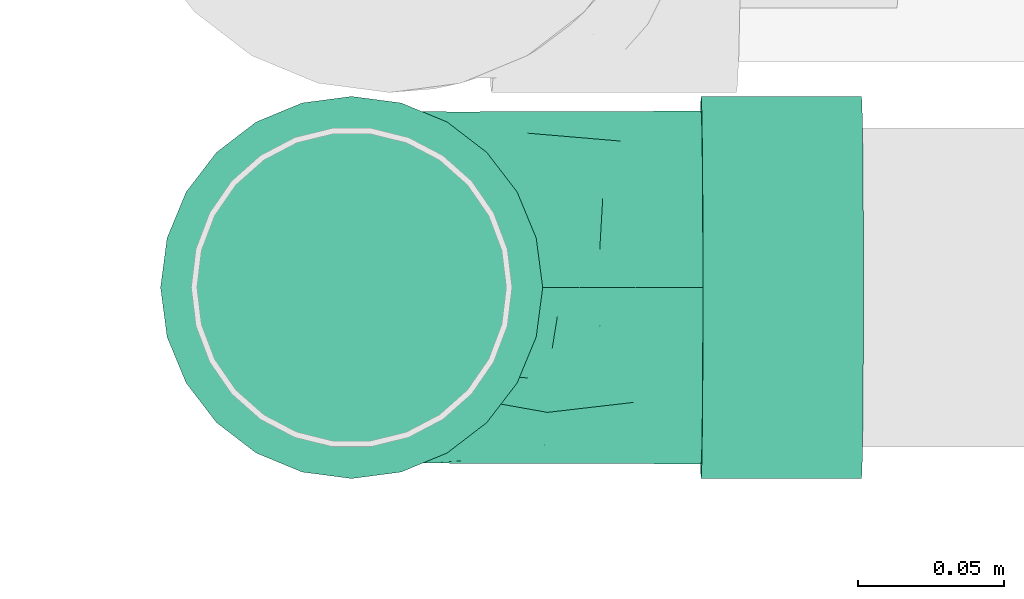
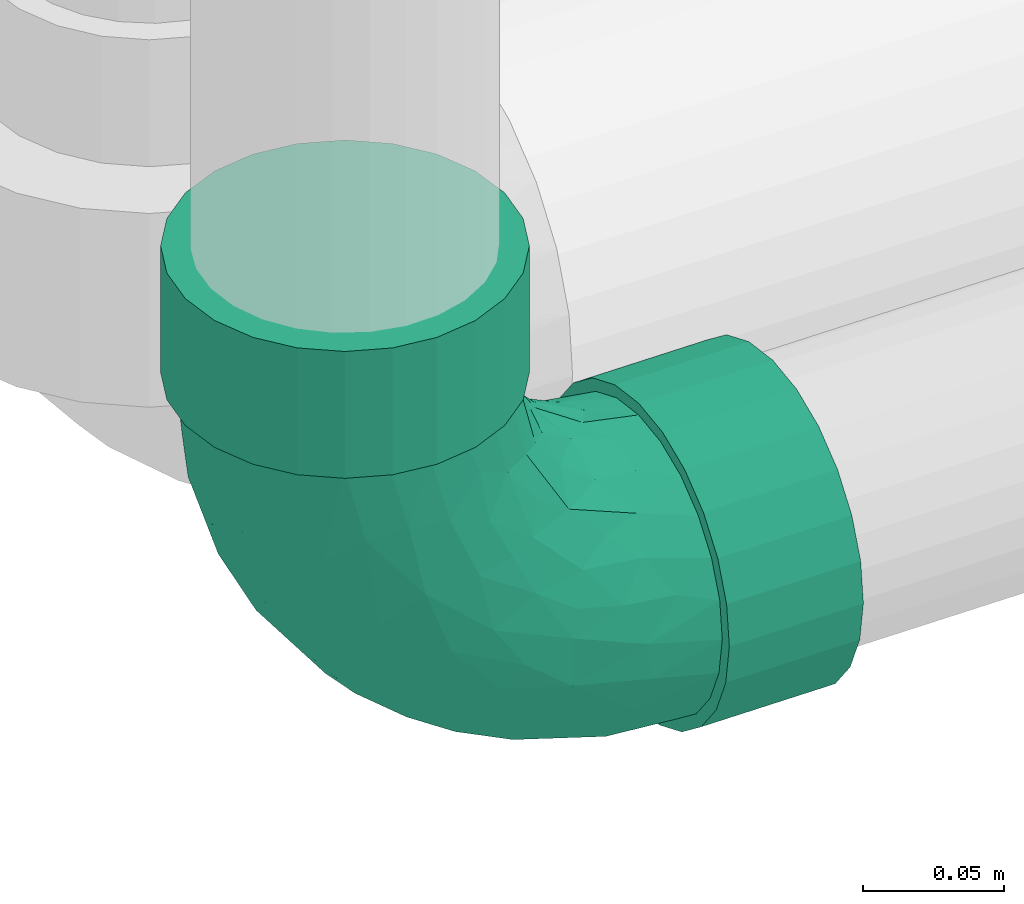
# One storey, part 60 of 78: 1 flow fitting.
"""IFC2X3 building model written with IfcOpenShell, lengths in millimetres."""

from ifc_helpers import new_model, entity, si_unit, converted_unit, derived_unit, direction, frame, origin_with_axes, place, context, subcontext, project, spatial, open_shell, surface_model, source, transform, mapped, type_object, element, save


model = new_model("IFC2X3")

# Units and contexts
model_context = context("Model", 3, precision=0.01, world=frame((0.0, 4.29681676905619e-09, 0.0)), true_north=direction((4.01073788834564e-13, 1.0)))
plan_context = context("Plan", 3, precision=0.01, world=frame((0.0, 4.29681676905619e-09, 0.0)), true_north=direction((4.01073788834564e-13, 1.0)))
body_context = subcontext(model_context, "Body", "Model", "MODEL_VIEW")
ifc_project = project(units=[converted_unit("PLANEANGLEUNIT", "DEGREE", entity("IfcPositiveLengthMeasure", 0.0174532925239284), si_unit("PLANEANGLEUNIT", "RADIAN"), dimensions=[0, 0, 0, 0, 0, 0, 0]), si_unit("AREAUNIT", "SQUARE_METRE"), si_unit("LENGTHUNIT", "METRE", prefix="MILLI"), si_unit("MASSUNIT", "GRAM", prefix="KILO"), si_unit("POWERUNIT", "WATT"), si_unit("PRESSUREUNIT", "PASCAL"), si_unit("FORCEUNIT", "NEWTON", prefix="KILO"), si_unit("ELECTRICVOLTAGEUNIT", "VOLT"), si_unit("ELECTRICCURRENTUNIT", "AMPERE"), si_unit("THERMODYNAMICTEMPERATUREUNIT", "DEGREE_CELSIUS"), si_unit("TIMEUNIT", "SECOND"), si_unit("VOLUMEUNIT", "CUBIC_METRE"), derived_unit("LINEARVELOCITYUNIT", [(si_unit("LENGTHUNIT", "METRE"), 1), (si_unit("TIMEUNIT", "SECOND"), -1)]), derived_unit("VOLUMETRICFLOWRATEUNIT", [(si_unit("VOLUMEUNIT", "CUBIC_METRE"), 1), (si_unit("TIMEUNIT", "SECOND"), -1)]), derived_unit("THERMALTRANSMITTANCEUNIT", [(si_unit("POWERUNIT", "WATT"), 1), (si_unit("THERMODYNAMICTEMPERATUREUNIT", "KELVIN"), -1), (si_unit("AREAUNIT", "SQUARE_METRE"), -1)]), derived_unit("SOUNDPRESSUREUNIT", [(si_unit("PRESSUREUNIT", "PASCAL"), 1)])], contexts=[model_context, plan_context])

# Site, building, storey
site_placement = place(None, frame((0.0, -4.29681676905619e-09, 0.0), z_axis=(0.0, 0.0, 1.0), x_axis=(1.0, 0.0, 0.0)))
site = spatial("IfcSite", under=ifc_project, at=site_placement, Name="ENGM", CompositionType="ELEMENT")
building_placement = place(site_placement, frame((0.0, 4.29681676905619e-09, 0.0), z_axis=(0.0, 0.0, 1.0), x_axis=(1.0, 0.0, 0.0)))
building = spatial("IfcBuilding", under=site, at=building_placement, Name="TH", CompositionType="ELEMENT")
storey_placement = place(building_placement, frame((0.0, 0.0, 205200.0), z_axis=(0.0, 0.0, 1.0), x_axis=(1.0, 0.0, 0.0)))
storey = spatial("IfcBuildingStorey", under=building, at=storey_placement, Name="Nivå D + 1,2 m", CompositionType="ELEMENT", Elevation=205200.0)

# Flow fitting
pipe_fitting_type = type_object("IfcPipeFittingType", Name="magi_sewer_bend_001 2", PredefinedType="BEND")
shared_shape = source(origin_with_axes(), body_context, "Body", "SurfaceModel", [
    surface_model("IfcShellBasedSurfaceModel", [(-174.79605, -16.95265, -63.26814), (-174.79605, -32.75, -56.72466), (-174.79605, -46.3155, -46.3155), (-174.79605, -63.26814, -16.95265), (-174.79605, 63.26814, 16.95265), (-174.79605, 46.3155, -46.3155), (-174.79605, -56.72466, -32.75), (-174.79605, 16.95265, -63.26814), (-174.79605, 0.0, -65.5), (-174.79605, 32.75, -56.72466), (-174.79605, 56.72466, -32.75), (-174.79605, 65.5, 0.0), (-174.79605, 63.26814, -16.95265), (-174.79605, -65.5, 0.0), (-174.79605, -56.72466, 32.75), (-174.79605, -46.3155, 46.3155), (-174.79605, -16.95265, 63.26814), (-174.79605, -32.75, 56.72466), (-174.79605, 0.0, 65.5), (-174.79605, 46.3155, 46.3155), (-174.79605, 56.72466, 32.75), (-174.79605, 16.95265, 63.26814), (-174.79605, 32.75, 56.72466), (-174.79605, -63.26814, 16.95265), (-119.79605, -16.95265, 63.26814), (-119.79605, 16.95265, 63.26814), (-119.79605, 0.0, 65.5), (-119.79605, -46.3155, 46.3155), (-119.79605, -32.75, 56.72466), (-119.79605, -56.72466, 32.75), (-119.79605, -63.26814, 16.95265), (-119.79605, 63.26814, 16.95265), (-119.79605, 46.3155, 46.3155), (-119.79605, 32.75, 56.72466), (-119.79605, 56.72466, 32.75), (-119.79605, 65.5, 0.0), (-119.79605, -65.5, 0.0), (-119.79605, -63.26814, -16.95265), (-119.79605, 46.3155, -46.3155), (-119.79605, -46.3155, -46.3155), (-119.79605, -56.72466, -32.75), (-119.79605, -32.75, -56.72466), (-119.79605, -16.95265, -63.26814), (-119.79605, 56.72466, -32.75), (-119.79605, 63.26814, -16.95265), (-119.79605, 16.95265, -63.26814), (-119.79605, 32.75, -56.72466), (-119.79605, 0.0, -65.5), (-61.51711, 175.41996, 16.95265), (-54.97396, 175.35452, 32.75), (-44.56531, 175.25044, 46.3155), (-15.20393, 174.95684, 63.26814), (-63.74885, 175.44227, 0.0), (-31.00049, 175.1148, 56.72466), (1.74787, 174.78731, 65.5), (-54.97396, 175.35452, -32.75), (-61.51711, 175.41996, -16.95265), (-44.56531, 175.25044, -46.3155), (-31.00049, 175.1148, -56.72466), (-15.20393, 174.95684, -63.26814), (48.06105, 174.32417, 46.3155), (18.69967, 174.61779, 63.26814), (34.49624, 174.45983, 56.72466), (65.01285, 174.15467, -16.95265), (65.01285, 174.15467, 16.95265), (58.4697, 174.22009, 32.75), (67.2446, 174.13234, 0.0), (18.69967, 174.61779, -63.26814), (48.06105, 174.32417, -46.3155), (34.49624, 174.45983, -56.72466), (1.74787, 174.78731, -65.5), (58.4697, 174.22009, -32.75), (64.46288, 119.15741, 16.95265), (64.46288, 119.15741, -16.95265), (66.69463, 119.1351, 0.0), (47.51108, 119.32693, 46.3155), (57.91973, 119.22285, 32.75), (33.94626, 119.46258, 56.72466), (18.1497, 119.62054, 63.26814), (47.51108, 119.32693, -46.3155), (57.91973, 119.22285, -32.75), (18.1497, 119.62054, -63.26814), (33.94626, 119.46258, -56.72466), (-15.7539, 119.95957, -63.26814), (1.1979, 119.79006, -65.5), (-15.7539, 119.95957, 63.26814), (-45.11528, 120.25319, -46.3155), (1.1979, 119.79006, 65.5), (-45.11528, 120.25319, 46.3155), (-31.55046, 120.11754, 56.72466), (-55.52393, 120.35728, 32.75), (-62.06708, 120.42271, 16.95265), (-31.55046, 120.11754, -56.72466), (-62.06708, 120.42271, -16.95265), (-55.52393, 120.35728, -32.75), (-64.29882, 120.44503, 0.0), (-119.79605, 15.65855, -58.43851), (-119.79605, 0.0, -60.5), (-119.79605, 58.43851, -15.65855), (-119.79605, 30.25, -52.39454), (-119.79605, 52.39454, -30.25), (-119.79605, 42.77996, -42.77996), (-119.79605, -60.5, 0.0), (-119.79605, -30.25, -52.39454), (-119.79605, -42.77996, -42.77996), (-119.79605, -15.65855, -58.43851), (-119.79605, -58.43851, -15.65855), (-119.79605, -52.39454, -30.25), (-119.79605, -58.43851, 15.65855), (-119.79605, 58.43851, 15.65855), (-119.79605, 52.39454, 30.25), (-119.79605, 42.77996, 42.77996), (-119.79605, 30.25, 52.39454), (-119.79605, 15.65855, 58.43851), (-119.79605, -52.39454, 30.25), (-119.79605, -42.77996, 42.77996), (-119.79605, -30.25, 52.39454), (-119.79605, -15.65855, 58.43851), (-119.79605, 0.0, 60.5), (-119.79605, 60.5, 0.0), (1.1979, 119.79006, -60.5), (-14.45987, 119.94664, -58.43851), (-29.05059, 120.09254, -52.39454), (-57.23769, 120.37442, -15.65855), (-51.19402, 120.31398, -30.25), (-41.57992, 120.21783, -42.77996), (43.97572, 119.36228, -42.77996), (16.85567, 119.63349, -58.43851), (31.44639, 119.48757, -52.39454), (53.58982, 119.26614, -30.25), (61.69488, 119.18509, 0.0), (59.63349, 119.20571, -15.65855), (-59.29907, 120.39503, 0.0), (-57.23769, 120.37442, 15.65855), (31.44639, 119.48757, 52.39454), (-41.57992, 120.21783, 42.77996), (-51.19402, 120.31398, 30.25), (-29.05059, 120.09254, 52.39454), (1.1979, 119.79006, 60.5), (-14.45987, 119.94664, 58.43851), (59.63349, 119.20571, 15.65855), (43.97572, 119.36228, 42.77996), (53.58982, 119.26614, 30.25), (16.85567, 119.63349, 58.43851), (-87.7564, -47.01625, 33.99799), (-81.59863, -53.25036, 19.1542), (-73.11264, -54.39358, 0.0), (-89.88607, -56.58763, 0.0), (32.95566, 31.76664, 23.12546), (43.83182, 46.87375, 14.90539), (38.78221, 51.23378, 30.50477), (27.9062, 48.06796, 41.81132), (15.20787, 45.76588, 50.34414), (12.34215, 21.46453, 41.06128), (-87.67949, -22.85435, 54.43811), (-45.91566, -14.74948, 50.34414), (-59.39918, -0.63529, 58.66063), (35.61407, 77.62346, 45.0791), (-77.9757, -34.8361, 45.0791), (-43.87656, -41.69608, 15.28359), (-51.34156, -45.4394, 0.0), (-29.57048, -36.48523, 0.0), (-60.74993, 104.22435, 10.29838), (-69.35406, 85.05568, 13.11484), (-55.89617, 104.58988, 25.146), (-90.67997, 51.23595, 39.98418), (-82.35119, 68.70825, 21.14642), (-72.88608, 71.30295, 29.78529), (-74.46524, 51.83294, 46.83172), (-93.91693, 37.9627, 50.02655), (-64.7146, 46.18683, 53.57995), (-20.42175, 58.94997, 60.37774), (-44.08168, 44.5247, 59.00094), (-35.46902, 26.15717, 60.21062), (-91.4278, -8.01784, 59.47305), (-21.55232, 103.54419, 56.65744), (-7.40427, 89.47277, 60.34912), (-81.06567, 26.11389, 57.59764), (-89.39426, 8.29859, 60.34912), (-61.1963, 20.40125, 60.32653), (-100.22652, 59.69373, 21.24783), (-87.01841, 60.22132, 31.01352), (-5.00788, -10.48569, 28.16974), (-0.2567, 1.69835, 36.97518), (-20.02834, -14.60637, 37.65577), (-104.15051, 61.68873, 10.04729), (-84.97466, 70.52154, 9.94969), (-27.56806, -26.6884, 28.95666), (-47.70463, -27.46001, 41.48377), (-77.23051, 78.00668, 0.0), (-96.78351, 65.04758, 0.0), (-37.30343, 92.96145, 50.12884), (-103.3235, 22.58663, 56.65744), (-15.17468, 39.71716, 59.39969), (-29.2412, 11.04411, 56.57187), (-5.36768, 32.19014, 55.60132), (-10.25306, 10.3561, 49.56135), (55.12195, 72.56508, 0.0), (54.06364, 81.06208, 19.1542), (47.89142, 87.28187, 33.99799), (8.93168, 91.34306, 59.47305), (-51.61902, -38.26796, 30.50477), (57.48361, 89.31572, 0.0), (-48.94222, 80.35407, 45.98414), (-48.70503, 96.95831, 39.351), (-64.07654, 97.42911, 0.0), (-25.30197, 81.32275, 57.59764), (-43.81672, 66.27767, 53.95713), (23.72996, 87.44657, 54.43811), (-61.39969, 85.45322, 29.82879), (-63.05326, 67.11986, 42.80831), (-31.43024, 61.58285, 58.73283), (1.22922, 59.38986, 58.66063), (7.99357, -4.95199, 15.701), (-10.83497, -22.23259, 0.0), (7.90055, -7.97995, 0.0), (-14.80413, -23.43427, 18.62284), (36.77909, 29.20417, 0.0), (27.16405, 17.21797, 13.77462), (14.60561, 9.00285, 27.38157), (-62.13583, 35.67828, 57.75346), (25.55144, 29.73756, 33.12826), (45.95052, 50.88462, 0.0), (22.33982, 10.61211, 0.0), (-100.30809, 36.96592, -49.53455), (-47.73707, -27.58441, -41.37975), (-45.91566, -14.74948, -50.34414), (-20.02833, -14.60637, -37.65576), (-89.39426, 8.29859, -60.34912), (23.72996, 87.44657, -54.43811), (15.20787, 45.76587, -50.34414), (1.22922, 59.38986, -58.66063), (-103.3235, 22.58663, -56.65744), (-69.35406, 85.05568, -13.11484), (-99.61716, 61.7931, -15.61987), (-60.74993, 104.22435, -10.29838), (-84.97466, 70.52154, -9.94969), (-51.61902, -38.26796, -30.50477), (-27.56806, -26.6884, -28.95666), (-81.06567, 26.11389, -57.59764), (-77.10309, 43.83442, -50.82968), (-63.16489, 39.90276, -56.32433), (-77.9757, -34.8361, -45.0791), (-58.74282, 21.01019, -60.37774), (-44.08168, 44.5247, -59.00094), (-25.80119, 35.7288, -60.21062), (-93.06227, 50.53384, -39.72245), (-81.59863, -53.25036, -19.1542), (-48.37734, 98.38526, -39.19567), (-58.55811, 100.47446, -21.85722), (-66.48601, 63.72127, -42.80831), (-87.7564, -47.01625, -33.99799), (-96.83303, 57.44021, -28.40114), (-82.35119, 68.70825, -21.14642), (-87.67949, -22.85435, -54.4381), (-7.40427, 89.47277, -60.34912), (-47.3097, -43.36092, -14.90539), (14.60561, 9.00285, -27.38157), (12.34215, 21.46453, -41.06128), (25.55144, 29.73756, -33.12826), (-91.4278, -8.01784, -59.47305), (-76.81538, 65.43647, -32.93), (47.89142, 87.28187, -33.99799), (38.78221, 51.23378, -30.50477), (35.61407, 77.62346, -45.0791), (29.28304, 25.48407, -22.76574), (-60.47804, 86.07722, -30.64376), (-37.30342, 92.96145, -50.12884), (-21.55232, 103.54419, -56.65744), (54.06364, 81.06209, -19.1542), (-25.30197, 81.32274, -57.59764), (8.93168, 91.34306, -59.47305), (-39.56343, 15.57107, -59.39969), (-10.75116, 29.35017, -56.57187), (-32.13486, 5.68929, -55.60132), (42.13274, 43.45743, -15.28359), (24.92518, 13.72209, -12.72535), (6.90731, -5.56587, -16.9111), (-51.07595, 60.37645, -52.89772), (-19.7883, 61.39724, -60.32653), (-59.39918, -0.63529, -58.66063), (-37.21382, 63.0363, -57.06139), (-50.30861, 78.65249, -45.71732), (-10.25306, 10.3561, -49.56135), (27.9062, 48.06796, -41.81132), (-14.80414, -23.43428, -18.62283), (-5.00912, -10.4834, -28.17458), (-0.26016, 1.69895, -36.97891)], [open_shell([[[0, 1, 2]], [[0, 2, 3]], [[4, 5, 0]], [[3, 2, 6]], [[3, 4, 0]], [[0, 7, 8]], [[0, 9, 7]], [[5, 9, 0]], [[5, 4, 10]], [[10, 11, 12]], [[4, 3, 13]], [[14, 15, 13]], [[13, 15, 4]], [[15, 16, 4]], [[16, 15, 17]], [[18, 4, 16]], [[4, 19, 20]], [[11, 10, 4]], [[19, 21, 22]], [[21, 19, 4]], [[18, 21, 4]], [[23, 14, 13]], [[24, 25, 26]], [[27, 24, 28]], [[27, 29, 30]], [[25, 24, 27]], [[31, 27, 30]], [[25, 32, 33]], [[32, 25, 31]], [[32, 31, 34]], [[25, 27, 31]], [[30, 35, 31]], [[30, 36, 35]], [[37, 38, 36]], [[39, 37, 40]], [[39, 41, 42]], [[39, 42, 37]], [[38, 37, 42]], [[36, 38, 43]], [[44, 35, 43]], [[42, 45, 46]], [[46, 38, 42]], [[42, 47, 45]], [[43, 35, 36]], [[44, 12, 35]], [[43, 10, 44]], [[45, 47, 7]], [[38, 5, 43]], [[44, 10, 12]], [[12, 11, 35]], [[9, 46, 7]], [[9, 5, 38]], [[46, 45, 7]], [[5, 10, 43]], [[38, 46, 9]], [[47, 8, 7]], [[0, 42, 41]], [[39, 1, 41]], [[6, 40, 37]], [[39, 40, 2]], [[3, 37, 36]], [[42, 0, 8]], [[41, 1, 0]], [[39, 2, 1]], [[40, 6, 2]], [[3, 6, 37]], [[36, 13, 3]], [[42, 8, 47]], [[30, 23, 36]], [[29, 14, 30]], [[28, 17, 27]], [[27, 15, 29]], [[30, 14, 23]], [[23, 13, 36]], [[18, 16, 24]], [[16, 17, 28]], [[15, 27, 17]], [[15, 14, 29]], [[24, 16, 28]], [[24, 26, 18]], [[21, 25, 33]], [[32, 22, 33]], [[20, 34, 31]], [[32, 34, 19]], [[4, 31, 35]], [[25, 21, 18]], [[33, 22, 21]], [[32, 19, 22]], [[34, 20, 19]], [[4, 20, 31]], [[35, 11, 4]], [[25, 18, 26]], [[48, 49, 50]], [[48, 50, 51]], [[48, 51, 52]], [[51, 50, 53]], [[52, 51, 54]], [[52, 55, 56]], [[52, 54, 55]], [[57, 55, 54]], [[54, 58, 57]], [[54, 59, 58]], [[54, 60, 59]], [[61, 62, 60]], [[60, 63, 59]], [[63, 60, 64]], [[64, 60, 65]], [[63, 64, 66]], [[67, 68, 69]], [[70, 59, 67]], [[68, 63, 71]], [[63, 68, 67]], [[63, 67, 59]], [[54, 61, 60]], [[72, 73, 74]], [[75, 72, 76]], [[75, 77, 78]], [[72, 75, 73]], [[78, 73, 75]], [[73, 79, 80]], [[79, 73, 81]], [[79, 81, 82]], [[73, 78, 81]], [[81, 83, 84]], [[81, 78, 83]], [[85, 86, 87]], [[88, 85, 89]], [[88, 90, 91]], [[85, 88, 86]], [[91, 86, 88]], [[87, 92, 83]], [[87, 86, 92]], [[91, 93, 94]], [[94, 86, 91]], [[93, 91, 95]], [[87, 83, 78]], [[83, 59, 84]], [[92, 58, 83]], [[93, 95, 56]], [[86, 57, 92]], [[83, 58, 59]], [[59, 70, 84]], [[55, 94, 56]], [[55, 57, 86]], [[94, 93, 56]], [[57, 58, 92]], [[86, 94, 55]], [[95, 52, 56]], [[48, 91, 90]], [[88, 49, 90]], [[53, 89, 85]], [[88, 89, 50]], [[51, 85, 87]], [[91, 48, 52]], [[90, 49, 48]], [[88, 50, 49]], [[89, 53, 50]], [[51, 53, 85]], [[87, 54, 51]], [[91, 52, 95]], [[78, 61, 87]], [[77, 62, 78]], [[76, 65, 75]], [[75, 60, 77]], [[78, 62, 61]], [[61, 54, 87]], [[66, 64, 72]], [[64, 65, 76]], [[60, 75, 65]], [[60, 62, 77]], [[72, 64, 76]], [[72, 74, 66]], [[63, 73, 80]], [[79, 71, 80]], [[69, 82, 81]], [[79, 82, 68]], [[67, 81, 84]], [[73, 63, 66]], [[80, 71, 63]], [[79, 68, 71]], [[82, 69, 68]], [[67, 69, 81]], [[84, 70, 67]], [[73, 66, 74]], [[96, 97, 98]], [[99, 96, 98]], [[98, 100, 101]], [[99, 98, 101]], [[102, 98, 97]], [[103, 104, 105]], [[104, 97, 105]], [[106, 102, 107]], [[104, 107, 102]], [[104, 102, 97]], [[102, 108, 98]], [[109, 98, 108]], [[110, 109, 111]], [[112, 109, 108]], [[111, 109, 112]], [[113, 112, 108]], [[114, 115, 108]], [[116, 108, 115]], [[117, 118, 116]], [[108, 116, 118]], [[118, 113, 108]], [[119, 98, 109]], [[120, 121, 122]], [[120, 122, 123]], [[124, 123, 122]], [[124, 122, 125]], [[120, 123, 126]], [[127, 126, 128]], [[127, 120, 126]], [[129, 130, 131]], [[130, 129, 126]], [[123, 130, 126]], [[123, 132, 130]], [[133, 134, 132]], [[135, 133, 136]], [[133, 137, 138]], [[137, 133, 135]], [[139, 138, 137]], [[140, 141, 142]], [[141, 140, 134]], [[134, 138, 143]], [[134, 140, 132]], [[133, 138, 134]], [[132, 140, 130]], [[144, 114, 145]], [[146, 145, 147]], [[148, 149, 150]], [[145, 114, 108]], [[108, 147, 145]], [[151, 152, 153]], [[115, 114, 144]], [[154, 155, 156]], [[157, 141, 134]], [[158, 116, 115]], [[158, 154, 116]], [[159, 160, 161]], [[162, 163, 164]], [[111, 165, 110]], [[163, 166, 167]], [[168, 169, 170]], [[171, 172, 173]], [[165, 111, 169]], [[117, 174, 118]], [[139, 175, 176]], [[177, 178, 179]], [[180, 181, 166]], [[182, 183, 184]], [[119, 109, 185]], [[166, 186, 185]], [[187, 184, 188]], [[189, 190, 186]], [[137, 135, 191]], [[113, 192, 112]], [[193, 194, 195]], [[196, 155, 184]], [[166, 185, 180]], [[149, 197, 198]], [[111, 112, 169]], [[150, 198, 199]], [[191, 175, 137]], [[149, 198, 150]], [[143, 138, 200]], [[144, 201, 158]], [[198, 140, 142]], [[133, 164, 136]], [[199, 198, 142]], [[145, 146, 160]], [[198, 202, 140]], [[142, 141, 199]], [[203, 191, 204]], [[177, 170, 169]], [[186, 163, 189]], [[178, 177, 192]], [[205, 162, 132]], [[113, 118, 178]], [[189, 163, 205]], [[181, 167, 166]], [[191, 206, 175]], [[207, 206, 191]], [[136, 164, 204]], [[208, 134, 143]], [[116, 154, 117]], [[157, 208, 152]], [[137, 175, 139]], [[138, 139, 176]], [[155, 158, 188]], [[162, 205, 163]], [[157, 134, 208]], [[209, 167, 210]], [[206, 171, 176]], [[204, 135, 136]], [[210, 170, 207]], [[171, 206, 211]], [[200, 176, 212]], [[174, 178, 118]], [[156, 173, 179]], [[155, 154, 158]], [[174, 154, 156]], [[155, 188, 184]], [[155, 196, 194]], [[200, 208, 143]], [[212, 195, 152]], [[212, 152, 208]], [[152, 196, 153]], [[201, 144, 145]], [[158, 115, 144]], [[141, 157, 199]], [[150, 199, 157]], [[213, 214, 215]], [[182, 184, 187]], [[216, 159, 161]], [[217, 149, 218]], [[219, 213, 218]], [[152, 151, 157]], [[192, 169, 112]], [[220, 172, 170]], [[211, 207, 172]], [[165, 168, 210]], [[185, 186, 190]], [[163, 186, 166]], [[119, 185, 190]], [[185, 109, 180]], [[109, 110, 180]], [[181, 110, 165]], [[110, 181, 180]], [[210, 181, 165]], [[172, 220, 179]], [[212, 176, 171]], [[194, 173, 156]], [[171, 173, 193]], [[210, 204, 209]], [[191, 135, 204]], [[176, 200, 138]], [[208, 200, 212]], [[154, 174, 117]], [[178, 174, 156]], [[207, 191, 203]], [[172, 207, 170]], [[156, 179, 178]], [[172, 179, 173]], [[210, 167, 181]], [[163, 167, 209]], [[183, 196, 184]], [[221, 153, 219]], [[221, 151, 153]], [[150, 157, 151]], [[155, 194, 156]], [[195, 194, 196]], [[152, 195, 196]], [[193, 195, 212]], [[171, 193, 212]], [[194, 193, 173]], [[164, 163, 209]], [[132, 162, 133]], [[108, 102, 147]], [[202, 198, 197]], [[202, 130, 140]], [[176, 175, 206]], [[178, 192, 113]], [[169, 192, 177]], [[162, 164, 133]], [[204, 164, 209]], [[216, 187, 159]], [[160, 159, 145]], [[145, 159, 201]], [[150, 221, 148]], [[149, 222, 197]], [[219, 182, 213]], [[213, 223, 218]], [[213, 216, 214]], [[158, 201, 188]], [[187, 188, 201]], [[159, 187, 201]], [[182, 187, 216]], [[213, 182, 216]], [[219, 153, 183]], [[219, 183, 182]], [[196, 183, 153]], [[216, 161, 214]], [[170, 177, 220]], [[179, 220, 177]], [[169, 168, 165]], [[170, 210, 168]], [[207, 211, 206]], [[172, 171, 211]], [[204, 210, 203]], [[207, 203, 210]], [[148, 219, 218]], [[151, 221, 150]], [[219, 148, 221]], [[149, 148, 218]], [[149, 217, 222]], [[223, 213, 215]], [[223, 217, 218]], [[99, 101, 224]], [[225, 226, 227]], [[97, 96, 228]], [[229, 230, 231]], [[96, 99, 232]], [[189, 205, 233]], [[190, 234, 119]], [[205, 235, 233]], [[236, 234, 190]], [[237, 225, 238]], [[239, 240, 241]], [[242, 225, 237]], [[243, 244, 245]], [[100, 246, 101]], [[107, 247, 106]], [[124, 248, 249]], [[247, 147, 106]], [[240, 246, 250]], [[247, 107, 251]], [[252, 234, 253]], [[242, 103, 254]], [[239, 243, 228]], [[121, 120, 255]], [[131, 130, 202]], [[256, 146, 247]], [[257, 258, 259]], [[260, 105, 97]], [[237, 247, 251]], [[242, 254, 226]], [[246, 252, 261]], [[189, 236, 190]], [[262, 263, 264]], [[253, 236, 233]], [[246, 240, 224]], [[123, 235, 132]], [[257, 259, 265]], [[254, 103, 105]], [[253, 233, 266]], [[267, 122, 268]], [[262, 129, 269]], [[122, 121, 268]], [[255, 270, 268]], [[242, 104, 103]], [[125, 122, 267]], [[248, 266, 249]], [[120, 127, 271]], [[126, 264, 128]], [[96, 232, 228]], [[272, 273, 274]], [[222, 217, 275]], [[276, 277, 257]], [[229, 128, 264]], [[269, 129, 131]], [[241, 278, 244]], [[269, 202, 197]], [[107, 104, 251]], [[248, 124, 125]], [[202, 269, 131]], [[128, 229, 127]], [[129, 262, 126]], [[270, 255, 279]], [[234, 252, 98]], [[256, 247, 237]], [[250, 261, 266]], [[269, 197, 222]], [[233, 235, 249]], [[239, 241, 243]], [[260, 228, 280]], [[271, 255, 120]], [[231, 245, 279]], [[278, 281, 244]], [[282, 266, 248]], [[260, 254, 105]], [[280, 274, 226]], [[280, 226, 254]], [[226, 283, 227]], [[230, 229, 264]], [[271, 229, 231]], [[230, 284, 258]], [[230, 283, 273]], [[104, 242, 251]], [[237, 251, 242]], [[263, 262, 269]], [[264, 126, 262]], [[283, 230, 258]], [[277, 214, 285]], [[238, 286, 285]], [[256, 285, 161]], [[287, 283, 258]], [[275, 217, 276]], [[240, 250, 278]], [[239, 232, 224]], [[282, 278, 250]], [[281, 267, 270]], [[233, 236, 189]], [[234, 236, 253]], [[261, 252, 253]], [[234, 98, 119]], [[246, 100, 252]], [[98, 252, 100]], [[244, 281, 279]], [[280, 228, 243]], [[273, 245, 231]], [[243, 245, 272]], [[228, 260, 97]], [[254, 260, 280]], [[229, 271, 127]], [[255, 271, 231]], [[266, 261, 253]], [[246, 261, 250]], [[125, 267, 248]], [[282, 248, 267]], [[231, 279, 255]], [[244, 279, 245]], [[230, 264, 284]], [[257, 286, 287]], [[264, 263, 284]], [[259, 284, 263]], [[246, 224, 101]], [[239, 224, 240]], [[230, 273, 231]], [[274, 273, 283]], [[226, 274, 283]], [[272, 274, 280]], [[243, 272, 280]], [[273, 272, 245]], [[278, 282, 267]], [[266, 282, 250]], [[132, 235, 205]], [[249, 235, 123]], [[124, 249, 123]], [[233, 249, 266]], [[147, 247, 146]], [[147, 102, 106]], [[224, 232, 99]], [[228, 232, 239]], [[255, 268, 121]], [[267, 268, 270]], [[256, 237, 238]], [[256, 160, 146]], [[265, 276, 257]], [[222, 275, 269]], [[269, 275, 263]], [[276, 217, 223]], [[278, 241, 240]], [[215, 277, 276]], [[286, 277, 285]], [[226, 225, 242]], [[238, 225, 227]], [[286, 238, 227]], [[256, 238, 285]], [[287, 286, 227]], [[286, 257, 277]], [[283, 287, 227]], [[257, 287, 258]], [[214, 277, 215]], [[214, 161, 285]], [[243, 241, 244]], [[267, 281, 278]], [[279, 281, 270]], [[284, 259, 258]], [[265, 263, 275]], [[263, 265, 259]], [[275, 276, 265]], [[256, 161, 160]], [[215, 276, 223]]])]),
])
flow_fitting_placement = place(storey_placement, frame((899090.49444, 483108.11831, 4402.41299000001), z_axis=(0.0, -1.0, 0.0), x_axis=(0.0, 0.0, -1.0)))
element("IfcFlowFitting", 1, at=flow_fitting_placement, inside=storey, type_object=pipe_fitting_type, Name="magi_sewer_bend_001 2", context=body_context, shape_type="MappedRepresentation", body=[
    mapped(shared_shape, transform((0.0, 0.0, 0.0), scale=1.0)),
])

save(model, "model.ifc")
